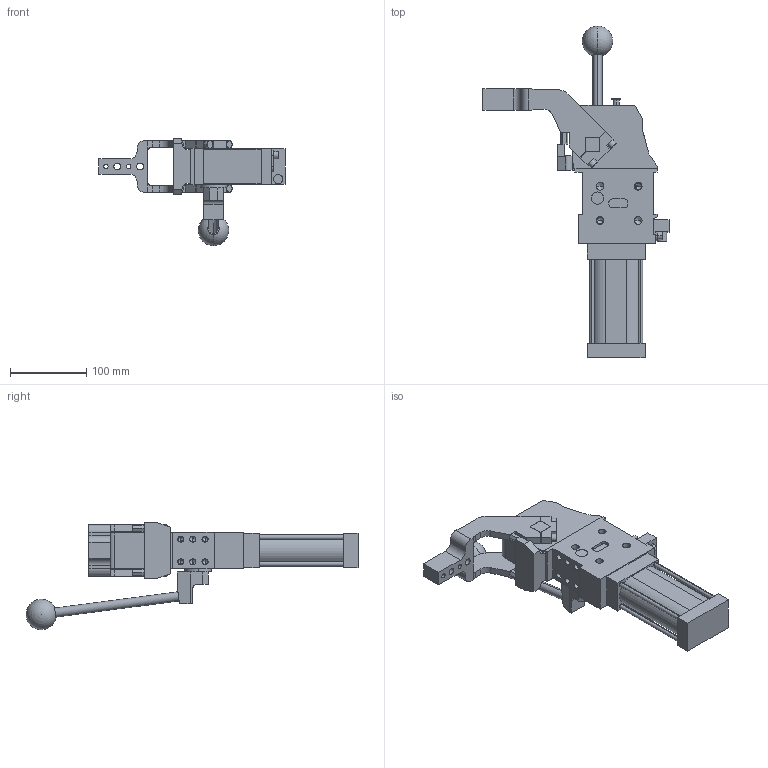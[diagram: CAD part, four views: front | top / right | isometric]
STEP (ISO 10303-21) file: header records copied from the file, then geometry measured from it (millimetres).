
FILE_DESCRIPTION (( 'STEP AP214' ), '1' );
FILE_NAME ('cplm50lbtv3ci1g_135.STEP', '2023-01-26T14:03:38', ( '' ), ( '' ), 'SwSTEP 2.0', 'SolidWorks 2022', '' );
FILE_SCHEMA (( 'AUTOMOTIVE_DESIGN' ));
Length unit declared in the file: millimetre
Products named in the file (5): cplm50lbtv3ci1g_135; blocchetto_VEP_0; meccanica_cplm_50_tassello_esterno; comando_manuale_cplm_50; leva_v3c_cpl50t
Assembly tree (4 placements, depth 2):
  cplm50lbtv3ci1g_135
    meccanica_cplm_50_tassello_esterno
    blocchetto_VEP_0
    leva_v3c_cpl50t
    comando_manuale_cplm_50
Bounding box: 244.5 x 436.23 x 141 mm (x, y, z)
Volume: 1504229.7 mm3; surface area: 190616.3 mm2
Topology: 4 solids, 4 shells, 466 faces, 1207 edges, 757 vertices
Faces by surface type: plane 245, cylinder 169, cone 50, sphere 2
Entity records: 15484 total; most frequent: CARTESIAN_POINT 2459, DIRECTION 2456, ORIENTED_EDGE 2312, EDGE_CURVE 1156, AXIS2_PLACEMENT_3D 833, LINE 790, VECTOR 790, VERTEX_POINT 754
